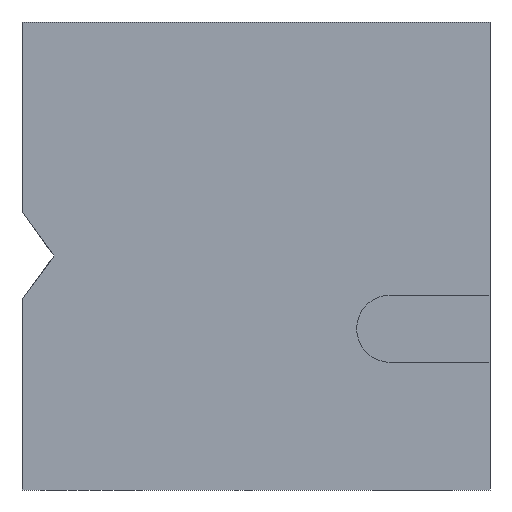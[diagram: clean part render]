
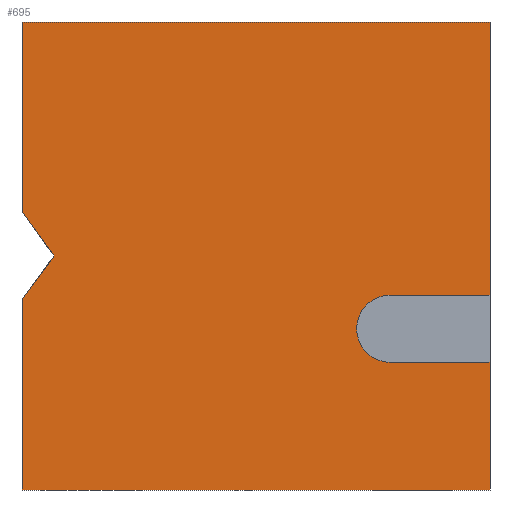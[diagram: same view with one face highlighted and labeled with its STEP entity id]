
A CAD part, left-side view. The second image highlights one B-rep face of the part: STEP entity #695.
In plain terms, the highlighted planar face has unit normal (-1, 0, 0).
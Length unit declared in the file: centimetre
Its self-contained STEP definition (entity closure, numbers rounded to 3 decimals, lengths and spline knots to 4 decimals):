
#9 = EDGE_CURVE ( 'NONE', #208, #462, #488, .T. ) ;
#14 = ORIENTED_EDGE ( 'NONE', *, *, #179, .T. ) ;
#17 = ORIENTED_EDGE ( 'NONE', *, *, #868, .F. ) ;
#20 = VECTOR ( 'NONE', #380, 100. ) ;
#51 = VERTEX_POINT ( 'NONE', #483 ) ;
#82 = VERTEX_POINT ( 'NONE', #911 ) ;
#88 = EDGE_CURVE ( 'NONE', #359, #828, #216, .T. ) ;
#91 = CARTESIAN_POINT ( 'NONE',  ( 0., 0., 272.6861 ) ) ;
#95 = CARTESIAN_POINT ( 'NONE',  ( 0., 1000., 0. ) ) ;
#96 = DIRECTION ( 'NONE',  ( -1., 0., 0. ) ) ;
#104 = EDGE_CURVE ( 'NONE', #51, #733, #234, .T. ) ;
#117 = EDGE_CURVE ( 'NONE', #582, #51, #817, .T. ) ;
#125 = CARTESIAN_POINT ( 'NONE',  ( 0., 1000., 406.3979 ) ) ;
#139 = VERTEX_POINT ( 'NONE', #600 ) ;
#148 = VERTEX_POINT ( 'NONE', #305 ) ;
#154 = CARTESIAN_POINT ( 'NONE',  ( 0., 1000., 406.3979 ) ) ;
#173 = AXIS2_PLACEMENT_3D ( 'NONE', #310, #96, #820 ) ;
#174 = AXIS2_PLACEMENT_3D ( 'NONE', #427, #652, #866 ) ;
#178 = DIRECTION ( 'NONE',  ( 0., 1., 0. ) ) ;
#179 = EDGE_CURVE ( 'NONE', #148, #733, #242, .T. ) ;
#201 = VERTEX_POINT ( 'NONE', #425 ) ;
#207 = VECTOR ( 'NONE', #178, 100. ) ;
#208 = VERTEX_POINT ( 'NONE', #875 ) ;
#216 = LINE ( 'NONE', #125, #321 ) ;
#221 = ORIENTED_EDGE ( 'NONE', *, *, #391, .F. ) ;
#234 = LINE ( 'NONE', #672, #810 ) ;
#238 = DIRECTION ( 'NONE',  ( 0., 0., -1. ) ) ;
#240 = VECTOR ( 'NONE', #510, 100. ) ;
#242 = LINE ( 'NONE', #95, #20 ) ;
#259 = EDGE_CURVE ( 'NONE', #462, #201, #929, .T. ) ;
#260 = CARTESIAN_POINT ( 'NONE',  ( 0., 213.0817, 272.6861 ) ) ;
#267 = EDGE_LOOP ( 'NONE', ( #838, #878, #221, #17, #730, #862, #801, #722, #304, #623, #14 ) ) ;
#270 = DIRECTION ( 'NONE',  ( 0., -0.579, -0.815 ) ) ;
#274 = LINE ( 'NONE', #912, #490 ) ;
#304 = ORIENTED_EDGE ( 'NONE', *, *, #88, .T. ) ;
#305 = CARTESIAN_POINT ( 'NONE',  ( 0., 1000., 0. ) ) ;
#310 = CARTESIAN_POINT ( 'NONE',  ( 0., 213.0817, 344.6524 ) ) ;
#321 = VECTOR ( 'NONE', #557, 100. ) ;
#324 = LINE ( 'NONE', #403, #207 ) ;
#331 = VECTOR ( 'NONE', #631, 100. ) ;
#359 = VERTEX_POINT ( 'NONE', #430 ) ;
#361 = CARTESIAN_POINT ( 'NONE',  ( 0., 1000., 1000. ) ) ;
#380 = DIRECTION ( 'NONE',  ( 0., -1., 0. ) ) ;
#391 = EDGE_CURVE ( 'NONE', #82, #582, #720, .T. ) ;
#403 = CARTESIAN_POINT ( 'NONE',  ( 0., 213.0817, 416.6188 ) ) ;
#412 = VECTOR ( 'NONE', #509, 100. ) ;
#425 = CARTESIAN_POINT ( 'NONE',  ( 0., 0., 416.6188 ) ) ;
#427 = CARTESIAN_POINT ( 'NONE',  ( 0., 1000., 1000. ) ) ;
#430 = CARTESIAN_POINT ( 'NONE',  ( 0., 931.7314, 500. ) ) ;
#462 = VERTEX_POINT ( 'NONE', #741 ) ;
#464 = VECTOR ( 'NONE', #818, 100. ) ;
#480 = EDGE_CURVE ( 'NONE', #208, #139, #883, .T. ) ;
#483 = CARTESIAN_POINT ( 'NONE',  ( 0., 0., 272.6861 ) ) ;
#488 = LINE ( 'NONE', #772, #331 ) ;
#490 = VECTOR ( 'NONE', #270, 100. ) ;
#509 = DIRECTION ( 'NONE',  ( 0., 0., -1. ) ) ;
#510 = DIRECTION ( 'NONE',  ( 0., 0., -1. ) ) ;
#534 = CARTESIAN_POINT ( 'NONE',  ( 0., 1000., 1000. ) ) ;
#557 = DIRECTION ( 'NONE',  ( 0., 0.589, -0.808 ) ) ;
#576 = FACE_OUTER_BOUND ( 'NONE', #267, .T. ) ;
#582 = VERTEX_POINT ( 'NONE', #260 ) ;
#600 = CARTESIAN_POINT ( 'NONE',  ( 0., 1000., 596.0213 ) ) ;
#623 = ORIENTED_EDGE ( 'NONE', *, *, #824, .T. ) ;
#631 = DIRECTION ( 'NONE',  ( 0., -1., 0. ) ) ;
#648 = CARTESIAN_POINT ( 'NONE',  ( 0., 0., 0. ) ) ;
#652 = DIRECTION ( 'NONE',  ( 1., 0., 0. ) ) ;
#670 = EDGE_CURVE ( 'NONE', #139, #359, #274, .T. ) ;
#672 = CARTESIAN_POINT ( 'NONE',  ( 0., 0., 1000. ) ) ;
#695 = ADVANCED_FACE ( 'NONE', ( #576 ), #854, .F. ) ;
#720 = CIRCLE ( 'NONE', #173, 71.9663 ) ;
#722 = ORIENTED_EDGE ( 'NONE', *, *, #670, .T. ) ;
#730 = ORIENTED_EDGE ( 'NONE', *, *, #259, .F. ) ;
#731 = CARTESIAN_POINT ( 'NONE',  ( 0., 0., 1000. ) ) ;
#733 = VERTEX_POINT ( 'NONE', #648 ) ;
#741 = CARTESIAN_POINT ( 'NONE',  ( 0., 0., 1000. ) ) ;
#772 = CARTESIAN_POINT ( 'NONE',  ( 0., 1000., 1000. ) ) ;
#801 = ORIENTED_EDGE ( 'NONE', *, *, #480, .T. ) ;
#809 = VECTOR ( 'NONE', #882, 100. ) ;
#810 = VECTOR ( 'NONE', #238, 100. ) ;
#817 = LINE ( 'NONE', #91, #809 ) ;
#818 = DIRECTION ( 'NONE',  ( 0., 0., -1. ) ) ;
#820 = DIRECTION ( 'NONE',  ( 0., 0., -1. ) ) ;
#824 = EDGE_CURVE ( 'NONE', #828, #148, #861, .T. ) ;
#828 = VERTEX_POINT ( 'NONE', #154 ) ;
#838 = ORIENTED_EDGE ( 'NONE', *, *, #104, .F. ) ;
#854 = PLANE ( 'NONE',  #174 ) ;
#861 = LINE ( 'NONE', #361, #240 ) ;
#862 = ORIENTED_EDGE ( 'NONE', *, *, #9, .F. ) ;
#866 = DIRECTION ( 'NONE',  ( 0., 0., -1. ) ) ;
#868 = EDGE_CURVE ( 'NONE', #201, #82, #324, .T. ) ;
#875 = CARTESIAN_POINT ( 'NONE',  ( 0., 1000., 1000. ) ) ;
#878 = ORIENTED_EDGE ( 'NONE', *, *, #117, .F. ) ;
#882 = DIRECTION ( 'NONE',  ( 0., -1., 0. ) ) ;
#883 = LINE ( 'NONE', #534, #464 ) ;
#911 = CARTESIAN_POINT ( 'NONE',  ( 0., 213.0817, 416.6188 ) ) ;
#912 = CARTESIAN_POINT ( 'NONE',  ( 0., 931.7314, 500. ) ) ;
#929 = LINE ( 'NONE', #731, #412 ) ;
